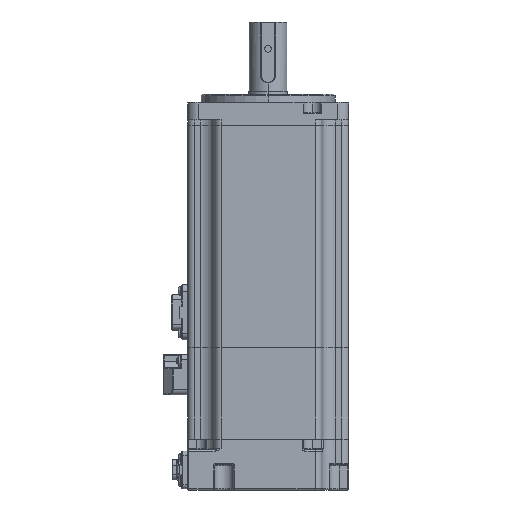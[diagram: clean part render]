
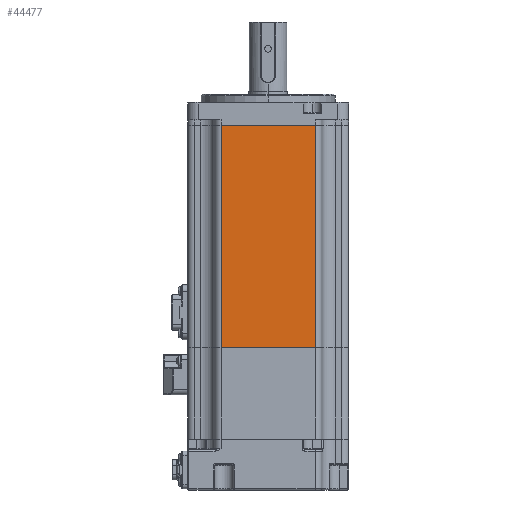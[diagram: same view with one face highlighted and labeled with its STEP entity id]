
A CAD part, left-side view. The second image highlights one B-rep face of the part: STEP entity #44477.
In plain terms, the highlighted planar face has unit normal (-1, 0, 0) as drawn and (1, 0, 0) by its records, which use the part's own axes.
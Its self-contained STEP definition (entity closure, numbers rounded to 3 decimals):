
#137 = CARTESIAN_POINT ( 'NONE',  ( 30., -17.55, 83. ) ) ;
#547 = LINE ( 'NONE', #68119, #51044 ) ;
#1503 = CARTESIAN_POINT ( 'NONE',  ( 30., -17.55, 83. ) ) ;
#7677 = ORIENTED_EDGE ( 'NONE', *, *, #10775, .T. ) ;
#7923 = DIRECTION ( 'NONE',  ( 0., 0., 1. ) ) ;
#8790 = CARTESIAN_POINT ( 'NONE',  ( 30., 17.55, 83. ) ) ;
#10775 = EDGE_CURVE ( 'NONE', #92777, #125841, #83389, .T. ) ;
#17042 = CARTESIAN_POINT ( 'NONE',  ( 30., 17.55, 0. ) ) ;
#23232 = ORIENTED_EDGE ( 'NONE', *, *, #87197, .F. ) ;
#25537 = ORIENTED_EDGE ( 'NONE', *, *, #37937, .T. ) ;
#33259 = VECTOR ( 'NONE', #110470, 1000. ) ;
#35921 = CARTESIAN_POINT ( 'NONE',  ( 30., -17.55, 0. ) ) ;
#37280 = CARTESIAN_POINT ( 'NONE',  ( 30., 17.55, 83. ) ) ;
#37937 = EDGE_CURVE ( 'NONE', #62508, #92777, #119918, .T. ) ;
#42866 = DIRECTION ( 'NONE',  ( 0., 0., -1. ) ) ;
#44477 = ADVANCED_FACE ( 'NONE', ( #81603 ), #133890, .F. ) ;
#45508 = CARTESIAN_POINT ( 'NONE',  ( 30., 17.55, 0. ) ) ;
#47871 = LINE ( 'NONE', #37280, #33259 ) ;
#50763 = DIRECTION ( 'NONE',  ( 0., 1., 0. ) ) ;
#51044 = VECTOR ( 'NONE', #112262, 1000. ) ;
#62508 = VERTEX_POINT ( 'NONE', #1503 ) ;
#68119 = CARTESIAN_POINT ( 'NONE',  ( 30., 17.55, 83. ) ) ;
#70364 = ORIENTED_EDGE ( 'NONE', *, *, #134239, .F. ) ;
#77168 = VERTEX_POINT ( 'NONE', #103117 ) ;
#81603 = FACE_OUTER_BOUND ( 'NONE', #96742, .T. ) ;
#83389 = LINE ( 'NONE', #17042, #97938 ) ;
#87197 = EDGE_CURVE ( 'NONE', #62508, #77168, #47871, .T. ) ;
#92225 = VECTOR ( 'NONE', #42866, 1000. ) ;
#92777 = VERTEX_POINT ( 'NONE', #35921 ) ;
#96742 = EDGE_LOOP ( 'NONE', ( #7677, #70364, #23232, #25537 ) ) ;
#97938 = VECTOR ( 'NONE', #50763, 1000. ) ;
#101056 = AXIS2_PLACEMENT_3D ( 'NONE', #8790, #132562, #7923 ) ;
#103117 = CARTESIAN_POINT ( 'NONE',  ( 30., 17.55, 83. ) ) ;
#110470 = DIRECTION ( 'NONE',  ( 0., 1., 0. ) ) ;
#112262 = DIRECTION ( 'NONE',  ( 0., 0., -1. ) ) ;
#119918 = LINE ( 'NONE', #137, #92225 ) ;
#125841 = VERTEX_POINT ( 'NONE', #45508 ) ;
#132562 = DIRECTION ( 'NONE',  ( -1., 0., 0. ) ) ;
#133890 = PLANE ( 'NONE',  #101056 ) ;
#134239 = EDGE_CURVE ( 'NONE', #77168, #125841, #547, .T. ) ;
